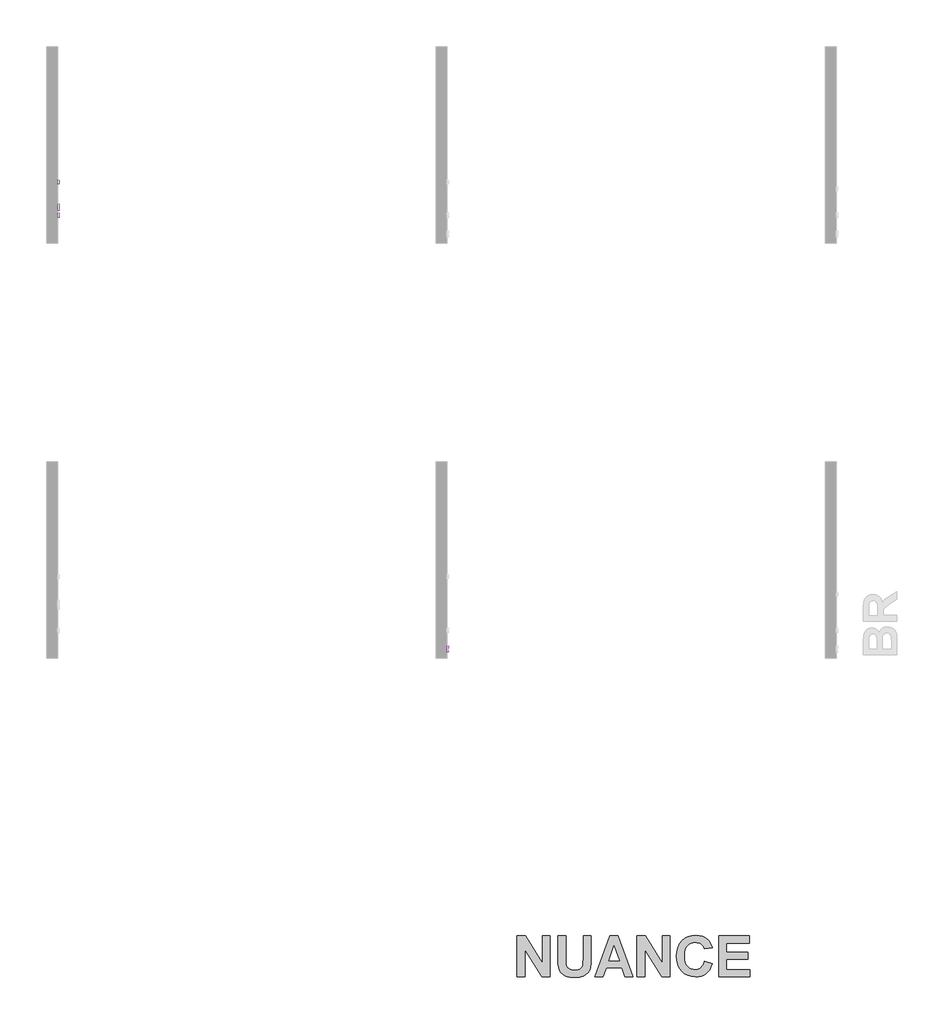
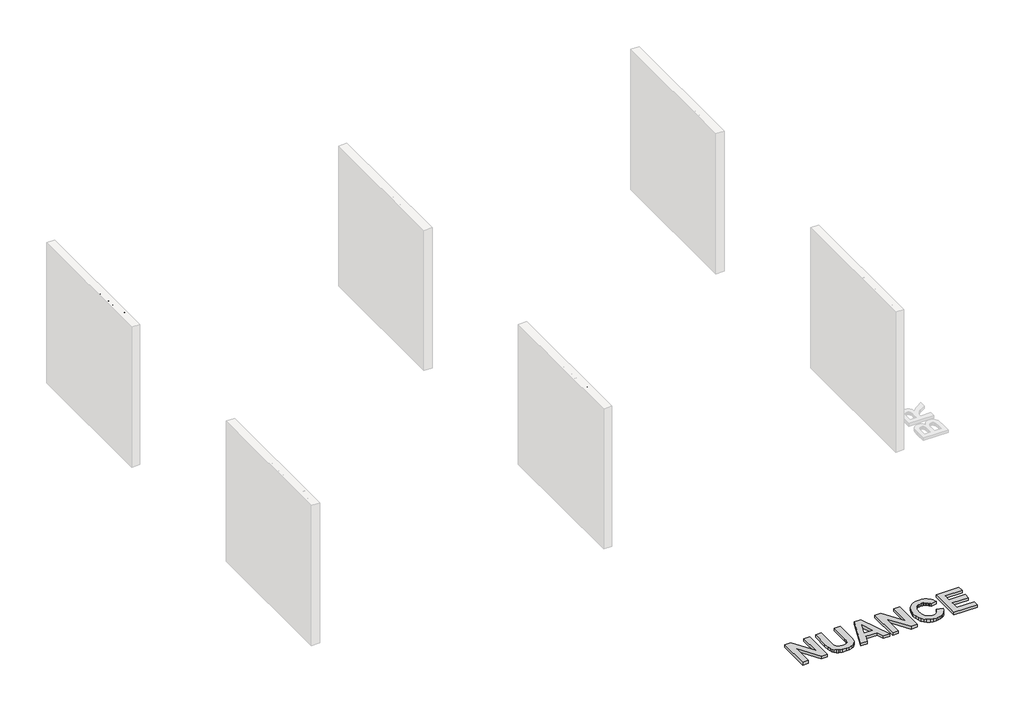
# One storey, part 2 of 21: 5 proxies.
"""IFC4 building model written with IfcOpenShell, lengths in millimetres."""

import ifcopenshell
import ifcopenshell.guid

model = None  # the IFC model being written
_history = None  # IfcOwnerHistory: only IFC2X3 demands one
_inside = {}  # id of a spatial element -> (the spatial element, [elements in it])
_under = {}  # id of a project, library or spatial element -> (it, [spatial elements below it])
_declared = {}  # id of a project -> (the project, [libraries it declares])
_typed = {}  # id of a type object -> (the type object, [elements of that type])
_made_of = {}  # id of a material, layer set ... -> (it, [elements and type objects made of it])


def new_model(schema):
    """Start an empty IFC model of exactly this schema.

    Asked for "IFC4X3", IfcOpenShell would pick the latest addendum, in which some entities
    have other attributes; the version numbers below select the first issue.
    IFC2X3 requires an IfcOwnerHistory on every rooted entity: one is made here for all.
    """
    global model, _history
    if schema == "IFC4X3":
        model = ifcopenshell.file(schema_version=(4, 3, 0, 0))
    else:
        model = ifcopenshell.file(schema=schema)
    _inside.clear()
    _under.clear()
    _declared.clear()
    _typed.clear()
    _made_of.clear()
    _history = None
    if model.schema == "IFC2X3":
        org = make("IfcOrganization", Name="unknown")
        user = make(
            "IfcPersonAndOrganization",
            ThePerson=make("IfcPerson", FamilyName="unknown"),
            TheOrganization=org,
        )
        app = make(
            "IfcApplication",
            ApplicationDeveloper=org,
            Version="unknown",
            ApplicationFullName="unknown",
            ApplicationIdentifier="unknown",
        )
        _history = make(
            "IfcOwnerHistory",
            OwningUser=user,
            OwningApplication=app,
            ChangeAction="ADDED",
            CreationDate=0,
        )
    return model


def make(cls, **values):
    """One entity of the class cls with the attributes given. An attribute that is None is left unset."""
    return model.create_entity(
        cls, **{name: value for name, value in values.items() if value is not None}
    )


def rooted(cls, **values):
    """An entity with a GlobalId (a new one), such as an element, a storey or a relation."""
    return make(cls, GlobalId=ifcopenshell.guid.new(), OwnerHistory=_history, **values)


def si_unit(unit_type, name, prefix=None):
    """IfcSIUnit, for example si_unit("LENGTHUNIT", "METRE", prefix="MILLI")."""
    return make("IfcSIUnit", UnitType=unit_type, Prefix=prefix, Name=name)


def assignment(units):
    """IfcUnitAssignment: the units of a project."""
    return None if units is None else make("IfcUnitAssignment", Units=units)


def point(xyz):
    """IfcCartesianPoint."""
    return None if xyz is None else make("IfcCartesianPoint", Coordinates=xyz)


def direction(xyz):
    """IfcDirection."""
    return None if xyz is None else make("IfcDirection", DirectionRatios=xyz)


def frame(location, z_axis=None, x_axis=None):
    """IfcAxis2Placement3D, a coordinate frame: its origin and axes. An axis left out is left unset."""
    return make(
        "IfcAxis2Placement3D",
        Location=point(location),
        Axis=direction(z_axis),
        RefDirection=direction(x_axis),
    )


def origin():
    """The frame at (0, 0, 0) with its axes left unset."""
    return frame((0.0, 0.0, 0.0))


def origin_with_axes():
    """The frame at (0, 0, 0) with the z axis (0, 0, 1) and the x axis (1, 0, 0) written out."""
    return frame((0.0, 0.0, 0.0), z_axis=(0.0, 0.0, 1.0), x_axis=(1.0, 0.0, 0.0))


def place(relative_to, where):
    """IfcLocalPlacement: puts the frame where relative to a parent placement (None: the world)."""
    return make(
        "IfcLocalPlacement", PlacementRelTo=relative_to, RelativePlacement=where
    )


def context(
    kind, dimensions, precision=None, world=None, true_north=None, identifier=None
):
    """IfcGeometricRepresentationContext, for example the 3D "Model" context."""
    return make(
        "IfcGeometricRepresentationContext",
        ContextIdentifier=identifier,
        ContextType=kind,
        CoordinateSpaceDimension=dimensions,
        Precision=precision,
        WorldCoordinateSystem=world,
        TrueNorth=true_north,
    )


def project(units=None, contexts=None):
    """IfcProject with its units and contexts."""
    return rooted(
        "IfcProject",
        Name="project",
        RepresentationContexts=contexts,
        UnitsInContext=assignment(units),
    )


def spatial(cls, under=None, at=None, **own):
    """A site, building, storey or space (cls), placed at a placement, below another one or the project."""
    s = rooted(cls, ObjectPlacement=at, **own)
    if under is not None:
        _under.setdefault(under.id(), (under, []))[1].append(s)
    return s


def polyline(points):
    """IfcPolyline through the points."""
    return make("IfcPolyline", Points=[point(p) for p in points])


def outline(outer, holes=None, kind="AREA"):
    """IfcArbitraryClosedProfileDef: a profile drawn as a closed curve; with holes, ...WithVoids."""
    if holes is None:
        return make("IfcArbitraryClosedProfileDef", ProfileType=kind, OuterCurve=outer)
    return make(
        "IfcArbitraryProfileDefWithVoids",
        ProfileType=kind,
        OuterCurve=outer,
        InnerCurves=holes,
    )


def extrude(swept, where, along, depth):
    """IfcExtrudedAreaSolid: the profile swept, set in the frame where, extruded along a direction by depth."""
    return make(
        "IfcExtrudedAreaSolid",
        SweptArea=swept,
        Position=where,
        ExtrudedDirection=direction(along),
        Depth=depth,
    )


def shape(context_of_items, identifier, shape_type, items):
    """IfcShapeRepresentation: the items that make up one representation, for example the "Body"."""
    return make(
        "IfcShapeRepresentation",
        ContextOfItems=context_of_items,
        RepresentationIdentifier=identifier,
        RepresentationType=shape_type,
        Items=items,
    )


def made_of(thing, what):
    """Note that an element or type object is made of a material, layer set ...; save() writes the relation."""
    if what is not None:
        _made_of.setdefault(what.id(), (what, []))[1].append(thing)
    return thing


def element(
    cls,
    number,
    at=None,
    inside=None,
    cuts=None,
    type_object=None,
    material=None,
    context=None,
    identifier="Body",
    shape_type=None,
    held_by="IfcProductDefinitionShape",
    body=None,
    shapes=None,
    **own,
):
    """One element of the class cls, such as IfcWall. Its Tag is "e" and its number.

    at: its placement. inside: the storey or other place that contains it. cuts: it is an
    opening in that element (IfcRelVoidsElement). A single representation is given by context,
    identifier, shape_type and body (its items); several are given by shapes. held_by: the class
    of the entity that holds the representations. save() writes the other relations.
    """
    e = rooted(cls, Tag="e%d" % number, ObjectPlacement=at, **own)
    if body is not None:
        shapes = [shape(context, identifier, shape_type, body)]
    if shapes is not None:
        e.Representation = make(held_by, Representations=shapes)
    if inside is not None:
        _inside.setdefault(inside.id(), (inside, []))[1].append(e)
    if cuts is not None:
        rooted(
            "IfcRelVoidsElement", RelatingBuildingElement=cuts, RelatedOpeningElement=e
        )
    if type_object is not None:
        _typed.setdefault(type_object.id(), (type_object, []))[1].append(e)
    return made_of(e, material)


def aggregate(whole, parts):
    """IfcRelAggregates: a whole, such as a stair, and the parts it consists of."""
    return rooted("IfcRelAggregates", RelatingObject=whole, RelatedObjects=parts)


def save(model, path):
    """Write the relations noted so far, then the file.

    IfcRelAggregates (storeys below a building ...), IfcRelContainedInSpatialStructure (elements
    in a storey), IfcRelDefinesByType, IfcRelAssociatesMaterial and IfcRelDeclares: one each for
    every whole, place, type object, material and project.
    """
    for whole, parts in _under.values():
        aggregate(whole, parts)
    for where, things in _inside.values():
        rooted(
            "IfcRelContainedInSpatialStructure",
            RelatedElements=things,
            RelatingStructure=where,
        )
    for kind, things in _typed.values():
        rooted("IfcRelDefinesByType", RelatedObjects=things, RelatingType=kind)
    for what, things in _made_of.values():
        rooted("IfcRelAssociatesMaterial", RelatedObjects=things, RelatingMaterial=what)
    for by, libraries in _declared.values():
        rooted("IfcRelDeclares", RelatingContext=by, RelatedDefinitions=libraries)
    model.write(path)


model = new_model("IFC4")

# Units and contexts
model_context = context("Model", 3, world=origin())
ifc_project = project(units=[si_unit("LENGTHUNIT", "METRE", prefix="MILLI")], contexts=[model_context])

# Site, building, storey
site = spatial("IfcSite", under=ifc_project)
building = spatial("IfcBuilding", under=site)
storey = spatial("IfcBuildingStorey", under=building, Name="PORTOBELLO - SHOWROOM", Elevation=0.0)

# Proxies
placement = place(None, origin())
element("IfcBuildingElementProxy", 1, Name="10mm Arial", ObjectType="10mm Arial", at=placement, inside=storey, context=model_context, shape_type="SweptSolid", body=[
    extrude(outline(polyline([(-1946.6519205, 2518.4745677), (-1906.552783, 2618.9308778), (-1895.8596797, 2618.9308778), (-1855.7850677, 2518.4745677), (-1869.0533449, 2518.4745677), (-1880.5312632, 2549.8671646), (-1921.9302504, 2549.8671646), (-1933.4081686, 2518.4745677), (-1946.6519205, 2518.4745677)]), holes=[polyline([(-1917.3194627, 2562.4242034), (-1885.1175254, 2562.4242034), (-1894.191948, 2587.121348), (-1901.2307568, 2606.373839), (-1907.4847507, 2589.279589), (-1917.3194627, 2562.4242034)])]), frame((15184.9919226, 0.0, 0.0), z_axis=(1.0, 0.0, 0.0), x_axis=(0.0, 1.0, 0.0)), (0.0, 0.0, 1.0), 20.0),
    extrude(outline(polyline([(-1843.9392674, 2518.4745677), (-1843.9392674, 2592.2471704), (-1832.9518585, 2592.2471704), (-1832.9518585, 2581.3333379), (-1825.1527602, 2591.3887791), (-1817.304611, 2593.8168003), (-1804.6985213, 2589.9417766), (-1808.892376, 2578.6845875), (-1817.7215439, 2581.2597615), (-1824.8216664, 2578.7826894), (-1829.3466149, 2571.9155588), (-1831.3822286, 2557.24933), (-1831.3822286, 2518.4745677), (-1843.9392674, 2518.4745677)])), frame((15184.9919226, 0.0, 0.0), z_axis=(1.0, 0.0, 0.0), x_axis=(0.0, 1.0, 0.0)), (0.0, 0.0, 1.0), 20.0),
    extrude(outline(polyline([(15204.9919226, -1784.2933333), (15204.9919226, -1796.850372), (15184.9919226, -1796.850372), (15184.9919226, -1784.2933333), (15204.9919226, -1784.2933333)])), frame((0.0, 0.0, 2518.4745677), z_axis=(0.0, 0.0, 1.0), x_axis=(1.0, 0.0, 0.0)), (0.0, 0.0, 1.0), 100.4563101),
    extrude(outline(polyline([(-1713.807143, 2540.4493855), (-1701.4953589, 2538.8797557), (-1705.9314026, 2529.602998), (-1713.0100653, 2522.6684224), (-1722.5719315, 2518.345809), (-1734.4575856, 2516.9049378), (-1749.1912596, 2519.391207), (-1760.5281564, 2526.8500144), (-1767.7570376, 2538.7969822), (-1770.1666646, 2554.7477324), (-1767.7325121, 2571.2349771), (-1760.4300545, 2583.5651553), (-1749.2464419, 2591.253889), (-1735.1688242, 2593.8168003), (-1721.5295992, 2591.2600204), (-1710.6310951, 2583.5896808), (-1703.4849873, 2571.2840281), (-1701.1029514, 2554.8213088), (-1701.1765278, 2551.4367944), (-1757.6096259, 2551.4367944), (-1755.4360564, 2542.0374095), (-1750.386876, 2535.1273593), (-1743.0997468, 2530.8783223), (-1734.212331, 2529.4619766), (-1721.9005469, 2532.0862015), (-1713.807143, 2540.4493855)]), holes=[polyline([(-1757.6096259, 2563.9938332), (-1713.6599902, 2563.9938332), (-1718.6877108, 2575.3736496), (-1726.0085625, 2579.7882335), (-1735.2178751, 2581.2597615), (-1750.6811816, 2576.5631347), (-1755.546421, 2571.0724959), (-1757.6096259, 2563.9938332)])]), frame((15184.9919226, 0.0, 0.0), z_axis=(1.0, 0.0, 0.0), x_axis=(0.0, 1.0, 0.0)), (0.0, 0.0, 1.0), 20.0),
    extrude(outline(polyline([(-1693.2548022, 2540.4493855), (-1680.6977634, 2542.0190154), (-1674.8852279, 2532.6993381), (-1661.5678997, 2529.4619766), (-1648.7656062, 2532.429558), (-1644.596277, 2539.3947905), (-1648.7901317, 2545.0356477), (-1661.7150525, 2548.6163658), (-1680.624187, 2554.7599951), (-1688.8770064, 2561.933694), (-1691.6851723, 2572.0627116), (-1689.4288294, 2581.419177), (-1683.2729374, 2588.5683505), (-1675.2898981, 2592.2839586), (-1664.4864302, 2593.8168003), (-1649.2070646, 2591.3519909), (-1639.49498, 2584.6810641), (-1635.1784979, 2573.4116123), (-1647.7355366, 2571.8419824), (-1652.4566889, 2578.7704267), (-1663.5054115, 2581.2597615), (-1675.52289, 2578.8807913), (-1679.1281336, 2573.3380359), (-1677.6320801, 2569.6837414), (-1672.9477161, 2566.9123637), (-1662.1319854, 2564.2390879), (-1643.7010974, 2558.3284505), (-1635.1417097, 2551.6329982), (-1632.0392382, 2540.7191656), (-1635.6812699, 2528.7016871), (-1646.1904323, 2519.9828838), (-1661.7395779, 2516.9049378), (-1674.4008499, 2518.3887285), (-1683.6408194, 2522.8401007), (-1689.8089742, 2530.2100033), (-1693.2548022, 2540.4493855)])), frame((15184.9919226, 0.0, 0.0), z_axis=(1.0, 0.0, 0.0), x_axis=(0.0, 1.0, 0.0)), (0.0, 0.0, 1.0), 20.0),
    extrude(outline(polyline([(-1581.8110831, 2567.3783476), (-1578.463357, 2589.5922887), (-1568.4201785, 2606.3983645), (-1553.0856307, 2616.9749719), (-1533.8637964, 2620.5005077), (-1520.6874896, 2618.8450387), (-1508.8723462, 2613.8786317), (-1499.0621597, 2605.9507747), (-1491.9007235, 2595.4109556), (-1487.5229277, 2582.7680777), (-1486.0636625, 2568.5310445), (-1487.5995698, 2554.1039389), (-1492.2072918, 2541.2832514), (-1499.6323768, 2530.7250381), (-1509.6203729, 2523.0853553), (-1521.3343488, 2518.4500422), (-1533.9373728, 2516.9049378), (-1547.3160147, 2518.6125234), (-1559.1986031, 2523.7352802), (-1568.9842642, 2531.81029), (-1576.072124, 2542.3746346), (-1581.8110831, 2567.3783476)]), holes=[polyline([(-1569.2540443, 2567.2557202), (-1566.7432497, 2551.5410277), (-1559.2108659, 2539.5664687), (-1547.8892975, 2531.9880996), (-1534.0109492, 2529.4619766), (-1519.9302658, 2532.0126251), (-1508.5903033, 2539.6645706), (-1501.1131018, 2552.0070115), (-1498.6207013, 2568.6291463), (-1502.8881324, 2589.3531654), (-1515.3593321, 2603.0751638), (-1533.79022, 2607.9434689), (-1547.2976206, 2605.5982212), (-1558.7816702, 2598.562478), (-1566.6359508, 2586.0452931), (-1569.2540443, 2567.2557202)])]), frame((15184.9919226, 0.0, 0.0), z_axis=(1.0, 0.0, 0.0), x_axis=(0.0, 1.0, 0.0)), (0.0, 0.0, 1.0), 20.0),
    extrude(outline(polyline([(15204.9919226, -1457.8103253), (15204.9919226, -1470.367364), (15184.9919226, -1470.367364), (15184.9919226, -1457.8103253), (15204.9919226, -1457.8103253)])), frame((0.0, 0.0, 2518.4745677), z_axis=(0.0, 0.0, 1.0), x_axis=(1.0, 0.0, 0.0)), (0.0, 0.0, 1.0), 100.4563101),
    extrude(outline(polyline([(15204.9919226, -1426.4177284), (15204.9919226, -1438.9747671), (15184.9919226, -1438.9747671), (15184.9919226, -1426.4177284), (15204.9919226, -1426.4177284)])), frame((0.0, 0.0, 2606.373839), z_axis=(0.0, 0.0, 1.0), x_axis=(1.0, 0.0, 0.0)), (0.0, 0.0, 1.0), 12.5570388),
    extrude(outline(polyline([(15204.9919226, -1426.4177284), (15204.9919226, -1438.9747671), (15184.9919226, -1438.9747671), (15184.9919226, -1426.4177284), (15204.9919226, -1426.4177284)])), frame((0.0, 0.0, 2518.4745677), z_axis=(0.0, 0.0, 1.0), x_axis=(1.0, 0.0, 0.0)), (0.0, 0.0, 1.0), 73.7726028),
    extrude(outline(polyline([(-1389.4333251, 2518.4745677), (-1415.4303194, 2592.2471704), (-1402.1620421, 2592.2471704), (-1386.4166927, 2548.0522801), (-1381.6832777, 2533.1898475), (-1377.0479646, 2547.2184142), (-1361.2290388, 2592.2471704), (-1347.936236, 2592.2471704), (-1373.5653484, 2518.4745677), (-1389.4333251, 2518.4745677)])), frame((15184.9919226, 0.0, 0.0), z_axis=(1.0, 0.0, 0.0), x_axis=(0.0, 1.0, 0.0)), (0.0, 0.0, 1.0), 20.0),
    extrude(outline(polyline([(-1285.298195, 2540.4493855), (-1272.9864109, 2538.8797557), (-1277.4224546, 2529.602998), (-1284.5011173, 2522.6684224), (-1294.0629835, 2518.345809), (-1305.9486377, 2516.9049378), (-1320.6823116, 2519.391207), (-1332.0192084, 2526.8500144), (-1339.2480896, 2538.7969822), (-1341.6577167, 2554.7477324), (-1339.2235641, 2571.2349771), (-1331.9211065, 2583.5651553), (-1320.7374939, 2591.253889), (-1306.6598762, 2593.8168003), (-1293.0206512, 2591.2600204), (-1282.1221471, 2583.5896808), (-1274.9760394, 2571.2840281), (-1272.5940034, 2554.8213088), (-1272.6675798, 2551.4367944), (-1329.1006779, 2551.4367944), (-1326.9271084, 2542.0374095), (-1321.8779281, 2535.1273593), (-1314.5907989, 2530.8783223), (-1305.703383, 2529.4619766), (-1293.3915989, 2532.0862015), (-1285.298195, 2540.4493855)]), holes=[polyline([(-1329.1006779, 2563.9938332), (-1285.1510422, 2563.9938332), (-1290.1787628, 2575.3736496), (-1297.4996145, 2579.7882335), (-1306.7089271, 2581.2597615), (-1322.1722337, 2576.5631347), (-1327.037473, 2571.0724959), (-1329.1006779, 2563.9938332)])]), frame((15184.9919226, 0.0, 0.0), z_axis=(1.0, 0.0, 0.0), x_axis=(0.0, 1.0, 0.0)), (0.0, 0.0, 1.0), 20.0),
])
element("IfcBuildingElementProxy", 2, Name="10mm Arial", ObjectType="10mm Arial", at=placement, inside=storey, context=model_context, shape_type="SweptSolid", body=[
    extrude(outline(polyline([(-1892.5977926, 2383.4745677), (-1905.1548314, 2383.4745677), (-1905.1548314, 2461.7598562), (-1917.0496826, 2453.2863076), (-1930.2689089, 2446.9464746), (-1930.2689089, 2458.8168003), (-1911.8625465, 2470.5644987), (-1900.6911965, 2483.9308778), (-1892.5977926, 2483.9308778), (-1892.5977926, 2383.4745677)])), frame((15184.9919226, 0.0, 0.0), z_axis=(1.0, 0.0, 0.0), x_axis=(0.0, 1.0, 0.0)), (0.0, 0.0, 1.0), 20.0),
    extrude(outline(polyline([(-1862.7748256, 2410.158275), (-1850.2177868, 2411.7279049), (-1843.8902165, 2398.7907214), (-1830.769092, 2394.4619766), (-1821.7682458, 2395.9672271), (-1815.0237426, 2400.4829786), (-1810.8114937, 2407.4880649), (-1809.4074108, 2416.4613199), (-1814.6681233, 2431.3728034), (-1821.2746708, 2435.4746877), (-1830.5728883, 2436.8419824), (-1841.5970854, 2434.6592159), (-1848.6481569, 2428.9938332), (-1861.2051957, 2430.563463), (-1850.2177868, 2482.361248), (-1801.5592616, 2482.361248), (-1801.5592616, 2469.8042092), (-1840.0642437, 2469.8042092), (-1845.4598463, 2442.1394832), (-1836.489657, 2447.5841367), (-1827.090272, 2449.3990212), (-1815.3548364, 2447.1488097), (-1805.6059635, 2440.3981751), (-1799.0392699, 2430.1097419), (-1796.850372, 2417.2461348), (-1798.8185407, 2404.6890961), (-1804.7230467, 2393.9469418), (-1816.0292867, 2384.9154388), (-1830.8181429, 2381.9049378), (-1843.1513868, 2383.839384), (-1852.9769018, 2389.6427224), (-1859.712208, 2398.6405029), (-1862.7748256, 2410.158275)])), frame((15184.9919226, 0.0, 0.0), z_axis=(1.0, 0.0, 0.0), x_axis=(0.0, 1.0, 0.0)), (0.0, 0.0, 1.0), 20.0),
    extrude(outline(polyline([(-1779.5844437, 2383.4745677), (-1779.5844437, 2396.0316064), (-1767.027405, 2396.0316064), (-1767.027405, 2383.4745677), (-1769.2837479, 2370.635486), (-1776.445184, 2363.0693797), (-1779.5844437, 2367.7782692), (-1774.973656, 2373.1983973), (-1773.3304498, 2383.4745677), (-1779.5844437, 2383.4745677)])), frame((15184.9919226, 0.0, 0.0), z_axis=(1.0, 0.0, 0.0), x_axis=(0.0, 1.0, 0.0)), (0.0, 0.0, 1.0), 20.0),
    extrude(outline(polyline([(-1746.622217, 2410.158275), (-1734.0651782, 2411.7279049), (-1727.7376079, 2398.7907214), (-1714.6164834, 2394.4619766), (-1705.6156372, 2395.9672271), (-1698.871134, 2400.4829786), (-1694.6588851, 2407.4880649), (-1693.2548022, 2416.4613199), (-1698.5155147, 2431.3728034), (-1705.1220622, 2435.4746877), (-1714.4202796, 2436.8419824), (-1725.4444768, 2434.6592159), (-1732.4955483, 2428.9938332), (-1745.0525871, 2430.563463), (-1734.0651782, 2482.361248), (-1685.406653, 2482.361248), (-1685.406653, 2469.8042092), (-1723.9116351, 2469.8042092), (-1729.3072377, 2442.1394832), (-1720.3370484, 2447.5841367), (-1710.9376634, 2449.3990212), (-1699.2022278, 2447.1488097), (-1689.4533549, 2440.3981751), (-1682.8866613, 2430.1097419), (-1680.6977634, 2417.2461348), (-1682.6659321, 2404.6890961), (-1688.5704381, 2393.9469418), (-1699.8766781, 2384.9154388), (-1714.6655343, 2381.9049378), (-1726.9987782, 2383.839384), (-1736.8242931, 2389.6427224), (-1743.5595993, 2398.6405029), (-1746.622217, 2410.158275)])), frame((15184.9919226, 0.0, 0.0), z_axis=(1.0, 0.0, 0.0), x_axis=(0.0, 1.0, 0.0)), (0.0, 0.0, 1.0), 20.0),
    extrude(outline(polyline([(-1674.419244, 2383.4745677), (-1647.5883839, 2420.5815982), (-1672.8496142, 2457.2471704), (-1657.7909779, 2457.2471704), (-1645.6018211, 2439.5643092), (-1639.8873874, 2431.2501761), (-1634.9332432, 2438.0682557), (-1621.0518293, 2457.2471704), (-1605.944142, 2457.2471704), (-1632.4806966, 2420.5570728), (-1606.9251607, 2383.4745677), (-1622.0083225, 2383.4745677), (-1637.4103153, 2405.792742), (-1640.2062185, 2409.8884949), (-1659.3115568, 2383.4745677), (-1674.419244, 2383.4745677)])), frame((15184.9919226, 0.0, 0.0), z_axis=(1.0, 0.0, 0.0), x_axis=(0.0, 1.0, 0.0)), (0.0, 0.0, 1.0), 20.0),
    extrude(outline(polyline([(-1551.988116, 2383.4745677), (-1564.5451548, 2383.4745677), (-1564.5451548, 2461.7598562), (-1576.440006, 2453.2863076), (-1589.6592323, 2446.9464746), (-1589.6592323, 2458.8168003), (-1571.2528699, 2470.5644987), (-1560.0815199, 2483.9308778), (-1551.988116, 2483.9308778), (-1551.988116, 2383.4745677)])), frame((15184.9919226, 0.0, 0.0), z_axis=(1.0, 0.0, 0.0), x_axis=(0.0, 1.0, 0.0)), (0.0, 0.0, 1.0), 20.0),
    extrude(outline(polyline([(-1522.165149, 2410.158275), (-1509.6081102, 2411.7279049), (-1503.2805399, 2398.7907214), (-1490.1594154, 2394.4619766), (-1481.1585692, 2395.9672271), (-1474.414066, 2400.4829786), (-1470.2018171, 2407.4880649), (-1468.7977342, 2416.4613199), (-1474.0584467, 2431.3728034), (-1480.6649942, 2435.4746877), (-1489.9632117, 2436.8419824), (-1500.9874088, 2434.6592159), (-1508.0384803, 2428.9938332), (-1520.5955191, 2430.563463), (-1509.6081102, 2482.361248), (-1460.949585, 2482.361248), (-1460.949585, 2469.8042092), (-1499.4545671, 2469.8042092), (-1504.8501697, 2442.1394832), (-1495.8799804, 2447.5841367), (-1486.4805954, 2449.3990212), (-1474.7451598, 2447.1488097), (-1464.9962869, 2440.3981751), (-1458.4295933, 2430.1097419), (-1456.2406954, 2417.2461348), (-1458.2088641, 2404.6890961), (-1464.1133701, 2393.9469418), (-1475.4196101, 2384.9154388), (-1490.2084663, 2381.9049378), (-1502.5417102, 2383.839384), (-1512.3672252, 2389.6427224), (-1519.1025314, 2398.6405029), (-1522.165149, 2410.158275)])), frame((15184.9919226, 0.0, 0.0), z_axis=(1.0, 0.0, 0.0), x_axis=(0.0, 1.0, 0.0)), (0.0, 0.0, 1.0), 20.0),
    extrude(outline(polyline([(-1438.9747671, 2383.4745677), (-1438.9747671, 2396.0316064), (-1426.4177284, 2396.0316064), (-1426.4177284, 2383.4745677), (-1428.6740713, 2370.635486), (-1435.8355074, 2363.0693797), (-1438.9747671, 2367.7782692), (-1434.3639794, 2373.1983973), (-1432.7207732, 2383.4745677), (-1438.9747671, 2383.4745677)])), frame((15184.9919226, 0.0, 0.0), z_axis=(1.0, 0.0, 0.0), x_axis=(0.0, 1.0, 0.0)), (0.0, 0.0, 1.0), 20.0),
    extrude(outline(polyline([(-1406.0125404, 2410.158275), (-1393.4555016, 2411.7279049), (-1387.1279313, 2398.7907214), (-1374.0068068, 2394.4619766), (-1365.0059606, 2395.9672271), (-1358.2614574, 2400.4829786), (-1354.0492085, 2407.4880649), (-1352.6451256, 2416.4613199), (-1357.9058381, 2431.3728034), (-1364.5123856, 2435.4746877), (-1373.810603, 2436.8419824), (-1384.8348002, 2434.6592159), (-1391.8858717, 2428.9938332), (-1404.4429105, 2430.563463), (-1393.4555016, 2482.361248), (-1344.7969764, 2482.361248), (-1344.7969764, 2469.8042092), (-1383.3019585, 2469.8042092), (-1388.6975611, 2442.1394832), (-1379.7273718, 2447.5841367), (-1370.3279868, 2449.3990212), (-1358.5925512, 2447.1488097), (-1348.8436783, 2440.3981751), (-1342.2769847, 2430.1097419), (-1340.0880868, 2417.2461348), (-1342.0562555, 2404.6890961), (-1347.9607615, 2393.9469418), (-1359.2670015, 2384.9154388), (-1374.0558577, 2381.9049378), (-1386.3891016, 2383.839384), (-1396.2146165, 2389.6427224), (-1402.9499227, 2398.6405029), (-1406.0125404, 2410.158275)])), frame((15184.9919226, 0.0, 0.0), z_axis=(1.0, 0.0, 0.0), x_axis=(0.0, 1.0, 0.0)), (0.0, 0.0, 1.0), 20.0),
])
element("IfcBuildingElementProxy", 3, Name="10mm Arial", ObjectType="10mm Arial", at=placement, inside=storey, context=model_context, shape_type="SweptSolid", body=[
    extrude(outline(polyline([(-7646.6519205, 2518.4745677), (-7606.552783, 2618.9308778), (-7595.8596797, 2618.9308778), (-7555.7850677, 2518.4745677), (-7569.0533449, 2518.4745677), (-7580.5312632, 2549.8671646), (-7621.9302504, 2549.8671646), (-7633.4081686, 2518.4745677), (-7646.6519205, 2518.4745677)]), holes=[polyline([(-7617.3194627, 2562.4242034), (-7585.1175254, 2562.4242034), (-7594.191948, 2587.121348), (-7601.2307568, 2606.373839), (-7607.4847507, 2589.279589), (-7617.3194627, 2562.4242034)])]), frame((20534.9936671, 0.0, 0.0), z_axis=(1.0, 0.0, 0.0), x_axis=(0.0, 1.0, 0.0)), (0.0, 0.0, 1.0), 20.0),
    extrude(outline(polyline([(-7543.9392674, 2518.4745677), (-7543.9392674, 2592.2471704), (-7532.9518585, 2592.2471704), (-7532.9518585, 2581.3333379), (-7525.1527602, 2591.3887791), (-7517.304611, 2593.8168003), (-7504.6985213, 2589.9417766), (-7508.892376, 2578.6845875), (-7517.7215439, 2581.2597615), (-7524.8216664, 2578.7826894), (-7529.3466149, 2571.9155588), (-7531.3822286, 2557.24933), (-7531.3822286, 2518.4745677), (-7543.9392674, 2518.4745677)])), frame((20534.9936671, 0.0, 0.0), z_axis=(1.0, 0.0, 0.0), x_axis=(0.0, 1.0, 0.0)), (0.0, 0.0, 1.0), 20.0),
    extrude(outline(polyline([(20554.9936671, -7484.2933333), (20554.9936671, -7496.850372), (20534.9936671, -7496.850372), (20534.9936671, -7484.2933333), (20554.9936671, -7484.2933333)])), frame((0.0, 0.0, 2518.4745677), z_axis=(0.0, 0.0, 1.0), x_axis=(1.0, 0.0, 0.0)), (0.0, 0.0, 1.0), 100.4563101),
    extrude(outline(polyline([(-7413.807143, 2540.4493855), (-7401.4953589, 2538.8797557), (-7405.9314026, 2529.602998), (-7413.0100653, 2522.6684224), (-7422.5719315, 2518.345809), (-7434.4575856, 2516.9049378), (-7449.1912596, 2519.391207), (-7460.5281564, 2526.8500144), (-7467.7570376, 2538.7969822), (-7470.1666646, 2554.7477324), (-7467.7325121, 2571.2349771), (-7460.4300545, 2583.5651553), (-7449.2464419, 2591.253889), (-7435.1688242, 2593.8168003), (-7421.5295992, 2591.2600204), (-7410.6310951, 2583.5896808), (-7403.4849873, 2571.2840281), (-7401.1029514, 2554.8213088), (-7401.1765278, 2551.4367944), (-7457.6096259, 2551.4367944), (-7455.4360564, 2542.0374095), (-7450.386876, 2535.1273593), (-7443.0997468, 2530.8783223), (-7434.212331, 2529.4619766), (-7421.9005469, 2532.0862015), (-7413.807143, 2540.4493855)]), holes=[polyline([(-7457.6096259, 2563.9938332), (-7413.6599902, 2563.9938332), (-7418.6877108, 2575.3736496), (-7426.0085625, 2579.7882335), (-7435.2178751, 2581.2597615), (-7450.6811816, 2576.5631347), (-7455.546421, 2571.0724959), (-7457.6096259, 2563.9938332)])]), frame((20534.9936671, 0.0, 0.0), z_axis=(1.0, 0.0, 0.0), x_axis=(0.0, 1.0, 0.0)), (0.0, 0.0, 1.0), 20.0),
    extrude(outline(polyline([(-7393.2548022, 2540.4493855), (-7380.6977634, 2542.0190154), (-7374.8852279, 2532.6993381), (-7361.5678997, 2529.4619766), (-7348.7656062, 2532.429558), (-7344.596277, 2539.3947905), (-7348.7901317, 2545.0356477), (-7361.7150525, 2548.6163658), (-7380.624187, 2554.7599951), (-7388.8770064, 2561.933694), (-7391.6851723, 2572.0627116), (-7389.4288294, 2581.419177), (-7383.2729374, 2588.5683505), (-7375.2898981, 2592.2839586), (-7364.4864302, 2593.8168003), (-7349.2070646, 2591.3519909), (-7339.49498, 2584.6810641), (-7335.1784979, 2573.4116123), (-7347.7355366, 2571.8419824), (-7352.4566889, 2578.7704267), (-7363.5054115, 2581.2597615), (-7375.52289, 2578.8807913), (-7379.1281336, 2573.3380359), (-7377.6320801, 2569.6837414), (-7372.9477161, 2566.9123637), (-7362.1319854, 2564.2390879), (-7343.7010974, 2558.3284505), (-7335.1417097, 2551.6329982), (-7332.0392382, 2540.7191656), (-7335.6812699, 2528.7016871), (-7346.1904323, 2519.9828838), (-7361.7395779, 2516.9049378), (-7374.4008499, 2518.3887285), (-7383.6408194, 2522.8401007), (-7389.8089742, 2530.2100033), (-7393.2548022, 2540.4493855)])), frame((20534.9936671, 0.0, 0.0), z_axis=(1.0, 0.0, 0.0), x_axis=(0.0, 1.0, 0.0)), (0.0, 0.0, 1.0), 20.0),
    extrude(outline(polyline([(-7277.1021936, 2518.4745677), (-7277.1021936, 2618.9308778), (-7264.5451548, 2618.9308778), (-7264.5451548, 2531.0316064), (-7214.3169997, 2531.0316064), (-7214.3169997, 2518.4745677), (-7277.1021936, 2518.4745677)])), frame((20534.9936671, 0.0, 0.0), z_axis=(1.0, 0.0, 0.0), x_axis=(0.0, 1.0, 0.0)), (0.0, 0.0, 1.0), 20.0),
    extrude(outline(polyline([(-7154.6710656, 2527.8923467), (-7166.8479596, 2519.3820099), (-7180.3001779, 2516.9049378), (-7190.7940118, 2518.3948599), (-7198.5348621, 2522.8646261), (-7203.308131, 2529.6520489), (-7204.8992207, 2538.0949407), (-7202.495725, 2548.0277546), (-7196.1804174, 2555.2382417), (-7187.3880377, 2559.3585201), (-7176.5232561, 2561.246981), (-7154.744642, 2565.563463), (-7154.6710656, 2568.3593662), (-7158.1291563, 2577.6299925), (-7172.0105703, 2581.2597615), (-7184.7147619, 2578.8440031), (-7190.772552, 2570.2723526), (-7203.3295908, 2571.8419824), (-7197.8972, 2584.1047156), (-7186.958842, 2591.2906772), (-7170.3918895, 2593.8168003), (-7155.1738376, 2591.5849828), (-7146.5776617, 2585.9809138), (-7142.7271635, 2577.4583142), (-7142.1140268, 2566.4709053), (-7142.1140268, 2550.8481832), (-7141.4763647, 2529.0327809), (-7138.9747671, 2518.4745677), (-7151.5318059, 2518.4745677), (-7154.6710656, 2527.8923467)]), holes=[polyline([(-7154.6710656, 2553.0064243), (-7174.9291008, 2549.1559261), (-7185.7325687, 2547.1203124), (-7190.6253992, 2543.8093744), (-7192.3421819, 2538.9778575), (-7188.6020483, 2532.1843033), (-7177.6269021, 2529.4619766), (-7164.9227105, 2532.4663462), (-7156.7312048, 2539.738147), (-7154.744642, 2549.4502317), (-7154.6710656, 2553.0064243)])]), frame((20534.9936671, 0.0, 0.0), z_axis=(1.0, 0.0, 0.0), x_axis=(0.0, 1.0, 0.0)), (0.0, 0.0, 1.0), 20.0),
    extrude(outline(polyline([(-7106.6992534, 2518.4745677), (-7132.6962477, 2592.2471704), (-7119.4279704, 2592.2471704), (-7103.682621, 2548.0522801), (-7098.949206, 2533.1898475), (-7094.3138929, 2547.2184142), (-7078.4949671, 2592.2471704), (-7065.2021644, 2592.2471704), (-7090.8312767, 2518.4745677), (-7106.6992534, 2518.4745677)])), frame((20534.9936671, 0.0, 0.0), z_axis=(1.0, 0.0, 0.0), x_axis=(0.0, 1.0, 0.0)), (0.0, 0.0, 1.0), 20.0),
    extrude(outline(polyline([(-7007.12586, 2527.8923467), (-7019.3027541, 2519.3820099), (-7032.7549724, 2516.9049378), (-7043.2488063, 2518.3948599), (-7050.9896566, 2522.8646261), (-7055.7629255, 2529.6520489), (-7057.3540151, 2538.0949407), (-7054.9505194, 2548.0277546), (-7048.6352118, 2555.2382417), (-7039.8428322, 2559.3585201), (-7028.9780506, 2561.246981), (-7007.1994364, 2565.563463), (-7007.12586, 2568.3593662), (-7010.5839508, 2577.6299925), (-7024.4653648, 2581.2597615), (-7037.1695563, 2578.8440031), (-7043.2273465, 2570.2723526), (-7055.7843853, 2571.8419824), (-7050.3519945, 2584.1047156), (-7039.4136365, 2591.2906772), (-7022.846684, 2593.8168003), (-7007.6286321, 2591.5849828), (-6999.0324562, 2585.9809138), (-6995.1819579, 2577.4583142), (-6994.5688213, 2566.4709053), (-6994.5688213, 2550.8481832), (-6993.9311592, 2529.0327809), (-6991.4295616, 2518.4745677), (-7003.9866004, 2518.4745677), (-7007.12586, 2527.8923467)]), holes=[polyline([(-7007.12586, 2553.0064243), (-7027.3838952, 2549.1559261), (-7038.1873632, 2547.1203124), (-7043.0801937, 2543.8093744), (-7044.7969764, 2538.9778575), (-7041.0568427, 2532.1843033), (-7030.0816965, 2529.4619766), (-7017.377505, 2532.4663462), (-7009.1859992, 2539.738147), (-7007.1994364, 2549.4502317), (-7007.12586, 2553.0064243)])]), frame((20534.9936671, 0.0, 0.0), z_axis=(1.0, 0.0, 0.0), x_axis=(0.0, 1.0, 0.0)), (0.0, 0.0, 1.0), 20.0),
    extrude(outline(polyline([(-6977.302893, 2518.4745677), (-6977.302893, 2592.2471704), (-6964.7458542, 2592.2471704), (-6964.7458542, 2581.9464746), (-6955.1441341, 2590.8492188), (-6942.0352724, 2593.8168003), (-6930.1772094, 2591.4255673), (-6922.0838055, 2585.1470479), (-6918.3191464, 2575.9132098), (-6917.6569588, 2563.773104), (-6917.6569588, 2518.4745677), (-6930.2139976, 2518.4745677), (-6930.2139976, 2562.0808468), (-6931.6610001, 2573.1908831), (-6936.7745598, 2579.0647323), (-6945.3952613, 2581.2597615), (-6959.0191578, 2576.3301428), (-6963.3141801, 2569.1871007), (-6964.7458542, 2557.6172119), (-6964.7458542, 2518.4745677), (-6977.302893, 2518.4745677)])), frame((20534.9936671, 0.0, 0.0), z_axis=(1.0, 0.0, 0.0), x_axis=(0.0, 1.0, 0.0)), (0.0, 0.0, 1.0), 20.0),
    extrude(outline(polyline([(-6854.871765, 2518.4745677), (-6854.871765, 2530.3203679), (-6863.1797667, 2520.2587953), (-6874.6638163, 2516.9049378), (-6890.212962, 2521.7609802), (-6901.2003709, 2535.3113003), (-6905.0999201, 2555.2872926), (-6901.5069392, 2575.2755477), (-6890.7402595, 2589.0343343), (-6874.7128673, 2593.8168003), (-6863.1368471, 2590.3954977), (-6854.871765, 2581.5050162), (-6854.871765, 2618.9308778), (-6842.3147262, 2618.9308778), (-6842.3147262, 2518.4745677), (-6854.871765, 2518.4745677)]), holes=[polyline([(-6892.5428813, 2555.3363436), (-6891.1265356, 2543.977987), (-6886.8774986, 2535.8999115), (-6880.7032124, 2531.0714603), (-6873.5111194, 2529.4619766), (-6866.3220921, 2530.9978839), (-6860.3041558, 2535.6056059), (-6856.2298627, 2543.3709817), (-6854.871765, 2554.3798504), (-6856.2543881, 2566.415723), (-6860.4022576, 2574.7605129), (-6866.5734781, 2579.6349494), (-6874.0261542, 2581.2597615), (-6881.2918236, 2579.6993287), (-6887.2453806, 2575.0180303), (-6891.2185061, 2566.976743), (-6892.5428813, 2555.3363436)])]), frame((20534.9936671, 0.0, 0.0), z_axis=(1.0, 0.0, 0.0), x_axis=(0.0, 1.0, 0.0)), (0.0, 0.0, 1.0), 20.0),
    extrude(outline(polyline([(-6771.8285359, 2540.4493855), (-6759.5167518, 2538.8797557), (-6763.9527956, 2529.602998), (-6771.0314583, 2522.6684224), (-6780.5933245, 2518.345809), (-6792.4789786, 2516.9049378), (-6807.2126525, 2519.391207), (-6818.5495493, 2526.8500144), (-6825.7784305, 2538.7969822), (-6828.1880576, 2554.7477324), (-6825.7539051, 2571.2349771), (-6818.4514475, 2583.5651553), (-6807.2678348, 2591.253889), (-6793.1902171, 2593.8168003), (-6779.5509921, 2591.2600204), (-6768.652488, 2583.5896808), (-6761.5063803, 2571.2840281), (-6759.1243444, 2554.8213088), (-6759.1979208, 2551.4367944), (-6815.6310188, 2551.4367944), (-6813.4574494, 2542.0374095), (-6808.408269, 2535.1273593), (-6801.1211398, 2530.8783223), (-6792.2337239, 2529.4619766), (-6779.9219398, 2532.0862015), (-6771.8285359, 2540.4493855)]), holes=[polyline([(-6815.6310188, 2563.9938332), (-6771.6813831, 2563.9938332), (-6776.7091037, 2575.3736496), (-6784.0299554, 2579.7882335), (-6793.2392681, 2581.2597615), (-6808.7025746, 2576.5631347), (-6813.567814, 2571.0724959), (-6815.6310188, 2563.9938332)])]), frame((20534.9936671, 0.0, 0.0), z_axis=(1.0, 0.0, 0.0), x_axis=(0.0, 1.0, 0.0)), (0.0, 0.0, 1.0), 20.0),
    extrude(outline(polyline([(-6746.5673056, 2518.4745677), (-6746.5673056, 2592.2471704), (-6735.5798967, 2592.2471704), (-6735.5798967, 2581.3333379), (-6727.7807984, 2591.3887791), (-6719.9326491, 2593.8168003), (-6707.3265594, 2589.9417766), (-6711.5204142, 2578.6845875), (-6720.3495821, 2581.2597615), (-6727.4497046, 2578.7826894), (-6731.9746531, 2571.9155588), (-6734.0102668, 2557.24933), (-6734.0102668, 2518.4745677), (-6746.5673056, 2518.4745677)])), frame((20534.9936671, 0.0, 0.0), z_axis=(1.0, 0.0, 0.0), x_axis=(0.0, 1.0, 0.0)), (0.0, 0.0, 1.0), 20.0),
])
element("IfcBuildingElementProxy", 4, Name="10mm Arial Narrow", ObjectType="10mm Arial Narrow", at=placement, inside=storey, context=model_context, shape_type="SweptSolid", body=[
    extrude(outline(polyline([(-1213.0722036, 2518.4745677), (-1213.0722036, 2615.7916181), (-1182.8323036, 2615.7916181), (-1167.0869542, 2613.9767336), (-1156.0014434, 2604.8164719), (-1151.8566396, 2588.3721467), (-1153.5826193, 2576.7041561), (-1158.7605584, 2567.402873), (-1168.1752718, 2561.314426), (-1182.6115744, 2559.2849437), (-1203.6544246, 2559.2849437), (-1203.6544246, 2518.4745677), (-1213.0722036, 2518.4745677)]), holes=[polyline([(-1203.6544246, 2570.2723526), (-1181.4588775, 2570.2723526), (-1166.130461, 2574.6501483), (-1161.2744187, 2587.857112), (-1163.6656517, 2597.6795612), (-1169.441399, 2603.2836303), (-1181.6796067, 2604.8042092), (-1203.6544246, 2604.8042092), (-1203.6544246, 2570.2723526)])]), frame((15184.9919226, 0.0, 0.0), z_axis=(1.0, 0.0, 0.0), x_axis=(0.0, 1.0, 0.0)), (0.0, 0.0, 1.0), 20.0),
    extrude(outline(polyline([(-1144.0084904, 2553.7912392), (-1142.1200295, 2569.8216971), (-1136.4546468, 2581.3701261), (-1127.895259, 2588.350687), (-1117.324783, 2590.6775406), (-1106.8769344, 2588.350687), (-1098.2930211, 2581.3701261), (-1092.554062, 2570.0056381), (-1090.6410756, 2554.5270032), (-1092.5203395, 2537.9447223), (-1098.1581311, 2526.2123523), (-1106.7083218, 2519.2317914), (-1117.324783, 2516.9049378), (-1127.8186169, 2519.2379228), (-1136.3933331, 2526.2368778), (-1142.1047011, 2537.7914381), (-1144.0084904, 2553.7912392)]), holes=[polyline([(-1134.5907113, 2553.8157647), (-1133.3307155, 2541.6879216), (-1129.550728, 2533.1162711), (-1123.906805, 2528.0211054), (-1117.0550029, 2526.3227169), (-1110.5618857, 2528.0364339), (-1105.0620498, 2533.1775847), (-1101.3096535, 2541.7645636), (-1100.0588547, 2553.8157647), (-1101.3188505, 2565.9068196), (-1105.098838, 2574.4662073), (-1110.742761, 2579.561373), (-1117.5945631, 2581.2597615), (-1124.1336656, 2579.5521759), (-1129.6243044, 2574.4294191), (-1133.3491096, 2565.8608343), (-1134.5907113, 2553.8157647)])]), frame((15184.9919226, 0.0, 0.0), z_axis=(1.0, 0.0, 0.0), x_axis=(0.0, 1.0, 0.0)), (0.0, 0.0, 1.0), 20.0),
    extrude(outline(polyline([(-1021.5773624, 2526.3227169), (-1020.0077326, 2516.9049378), (-1027.1201178, 2516.9049378), (-1035.1154198, 2518.9528143), (-1039.2847491, 2524.5568833), (-1040.4129206, 2538.7080774), (-1040.4129206, 2579.6901317), (-1048.2610698, 2579.6901317), (-1048.2610698, 2582.8293914), (-1049.8306996, 2578.1205018), (-1057.1392886, 2579.6901317), (-1063.0131378, 2577.4460515), (-1066.7532714, 2571.1797948), (-1068.6662578, 2556.2928368), (-1068.6662578, 2518.4745677), (-1078.0840369, 2518.4745677), (-1078.0840369, 2589.1079107), (-1068.6662578, 2589.1079107), (-1068.6662578, 2579.7391826), (-1062.6329931, 2588.5192995), (-1056.4525756, 2590.6775406), (-1048.2610698, 2589.1079107), (-1040.4129206, 2589.1079107), (-1040.4129206, 2604.8042092), (-1030.9951415, 2612.6523584), (-1030.9951415, 2589.1079107), (-1021.5773624, 2589.1079107), (-1021.5773624, 2579.6901317), (-1030.9951415, 2579.6901317), (-1030.9951415, 2536.5498364), (-1030.1612756, 2528.8243145), (-1025.6976408, 2526.3227169), (-1021.5773624, 2526.3227169)])), frame((15184.9919226, 0.0, 0.0), z_axis=(1.0, 0.0, 0.0), x_axis=(0.0, 1.0, 0.0)), (0.0, 0.0, 1.0), 20.0),
    extrude(outline(polyline([(-1015.298843, 2553.7912392), (-1013.4103821, 2569.8216971), (-1007.7449994, 2581.3701261), (-999.1856116, 2588.350687), (-988.6151356, 2590.6775406), (-978.167287, 2588.350687), (-969.5833738, 2581.3701261), (-963.8444146, 2570.0056381), (-961.9314283, 2554.5270032), (-963.8106921, 2537.9447223), (-969.4484837, 2526.2123523), (-977.9986744, 2519.2317914), (-988.6151356, 2516.9049378), (-999.1089696, 2519.2379228), (-1007.6836857, 2526.2368778), (-1013.3950537, 2537.7914381), (-1015.298843, 2553.7912392)]), holes=[polyline([(-1005.8810639, 2553.8157647), (-1004.6210681, 2541.6879216), (-1000.8410806, 2533.1162711), (-995.1971577, 2528.0211054), (-988.3453555, 2526.3227169), (-981.8522383, 2528.0364339), (-976.3524025, 2533.1775847), (-972.6000061, 2541.7645636), (-971.3492073, 2553.8157647), (-972.6092032, 2565.9068196), (-976.3891907, 2574.4662073), (-982.0331136, 2579.561373), (-988.8849158, 2581.2597615), (-995.4240182, 2579.5521759), (-1000.914657, 2574.4294191), (-1004.6394622, 2565.8608343), (-1005.8810639, 2553.8157647)])]), frame((15184.9919226, 0.0, 0.0), z_axis=(1.0, 0.0, 0.0), x_axis=(0.0, 1.0, 0.0)), (0.0, 0.0, 1.0), 20.0),
    extrude(outline(polyline([(-939.9566104, 2518.4745677), (-949.3743895, 2518.4745677), (-949.3743895, 2615.7916181), (-939.9566104, 2615.7916181), (-939.9566104, 2581.5785926), (-932.807437, 2588.4211977), (-923.9169554, 2590.6775406), (-911.4702813, 2586.6185759), (-902.5062233, 2574.3190545), (-899.1462344, 2554.3307995), (-901.0132355, 2538.4321659), (-906.6142389, 2526.641548), (-914.7045771, 2519.3390904), (-924.0395828, 2516.9049378), (-933.0649544, 2519.4310609), (-939.9566104, 2526.9358536), (-939.9566104, 2518.4745677)]), holes=[polyline([(-939.9566104, 2554.3307995), (-937.9455222, 2537.6657451), (-932.255614, 2529.2289847), (-924.0886337, 2526.3227169), (-918.3466089, 2528.0517623), (-913.2851658, 2533.2388984), (-908.5640135, 2553.938392), (-913.1134875, 2574.6501483), (-918.181062, 2579.6073582), (-924.2848374, 2581.2597615), (-930.0605847, 2579.5307161), (-935.1741445, 2574.34358), (-939.9566104, 2554.3307995)])]), frame((15184.9919226, 0.0, 0.0), z_axis=(1.0, 0.0, 0.0), x_axis=(0.0, 1.0, 0.0)), (0.0, 0.0, 1.0), 20.0),
    extrude(outline(polyline([(-848.9180793, 2540.4493855), (-839.5003003, 2538.8797557), (-848.6973501, 2522.4476932), (-865.1784635, 2516.9049378), (-876.3804703, 2519.2379228), (-885.2157695, 2526.2368778), (-890.9547287, 2537.6442853), (-892.867715, 2553.202628), (-890.9455316, 2569.3066623), (-885.1789813, 2581.0758205), (-876.4693751, 2588.2771106), (-865.7180238, 2590.6775406), (-855.3958681, 2588.359884), (-846.9437793, 2581.4069143), (-841.3059877, 2570.0638861), (-839.4267239, 2554.5760541), (-839.5003003, 2551.4367944), (-883.449936, 2551.4367944), (-877.6496632, 2532.6502872), (-871.9199011, 2527.9046095), (-865.0558362, 2526.3227169), (-855.2211242, 2529.854384), (-848.9180793, 2540.4493855)]), holes=[polyline([(-882.8122738, 2560.8545735), (-848.9180793, 2560.8545735), (-853.0383577, 2574.6378856), (-858.6669522, 2579.6042925), (-865.6444474, 2581.2597615), (-877.4411967, 2575.7415316), (-882.8122738, 2560.8545735)])]), frame((15184.9919226, 0.0, 0.0), z_axis=(1.0, 0.0, 0.0), x_axis=(0.0, 1.0, 0.0)), (0.0, 0.0, 1.0), 20.0),
    extrude(outline(polyline([(15204.9919226, -817.5254824), (15204.9919226, -826.9432615), (15184.9919226, -826.9432615), (15184.9919226, -817.5254824), (15204.9919226, -817.5254824)])), frame((0.0, 0.0, 2518.4745677), z_axis=(0.0, 0.0, 1.0), x_axis=(1.0, 0.0, 0.0)), (0.0, 0.0, 1.0), 97.3170505),
    extrude(outline(polyline([(15204.9919226, -792.4114049), (15204.9919226, -801.829184), (15184.9919226, -801.829184), (15184.9919226, -792.4114049), (15204.9919226, -792.4114049)])), frame((0.0, 0.0, 2518.4745677), z_axis=(0.0, 0.0, 1.0), x_axis=(1.0, 0.0, 0.0)), (0.0, 0.0, 1.0), 97.3170505),
    extrude(outline(polyline([(-781.423996, 2553.7912392), (-779.535535, 2569.8216971), (-773.8701523, 2581.3701261), (-765.3107646, 2588.350687), (-754.7402886, 2590.6775406), (-744.2924399, 2588.350687), (-735.7085267, 2581.3701261), (-729.9695676, 2570.0056381), (-728.0565812, 2554.5270032), (-729.935845, 2537.9447223), (-735.5736366, 2526.2123523), (-744.1238273, 2519.2317914), (-754.7402886, 2516.9049378), (-765.2341225, 2519.2379228), (-773.8088387, 2526.2368778), (-779.5202066, 2537.7914381), (-781.423996, 2553.7912392)]), holes=[polyline([(-772.0062169, 2553.8157647), (-770.746221, 2541.6879216), (-766.9662335, 2533.1162711), (-761.3223106, 2528.0211054), (-754.4705084, 2526.3227169), (-747.9773912, 2528.0364339), (-742.4775554, 2533.1775847), (-738.725159, 2541.7645636), (-737.4743603, 2553.8157647), (-738.7343561, 2565.9068196), (-742.5143436, 2574.4662073), (-748.1582665, 2579.561373), (-755.0100687, 2581.2597615), (-761.5491712, 2579.5521759), (-767.0398099, 2574.4294191), (-770.7646151, 2565.8608343), (-772.0062169, 2553.8157647)])]), frame((15184.9919226, 0.0, 0.0), z_axis=(1.0, 0.0, 0.0), x_axis=(0.0, 1.0, 0.0)), (0.0, 0.0, 1.0), 20.0),
])
element("IfcBuildingElementProxy", 5, Name="550mm Arial", ObjectType="550mm Arial", at=placement, inside=storey, context=model_context, shape_type="SweptSolid", body=[
    extrude(outline(polyline([(21500.5758225, -12102.6873012), (21500.5758225, -11541.5446312), (21612.6095153, -11541.5446312), (21847.9498563, -11919.2582241), (21847.9498563, -11541.5446312), (21954.8341743, -11541.5446312), (21954.8341743, -12102.6873012), (21839.3211743, -12102.6873012), (21607.4601406, -11730.5405999), (21607.4601406, -12102.6873012), (21500.5758225, -12102.6873012)])), origin_with_axes(), (0.0, 0.0, 1.0), 50.0),
    extrude(outline(polyline([(22061.7184924, -11541.5446312), (22168.6028105, -11541.5446312), (22168.6028105, -11844.2443602), (22169.7509819, -11903.6709277), (22173.1954961, -11937.7681385), (22186.5908289, -11968.6469902), (22210.9111864, -11992.8107789), (22227.1682495, -12001.9135164), (22246.1565687, -12008.4154718), (22292.3269756, -12013.6170361), (22338.4451929, -12008.7112129), (22356.6376206, -12002.5789339), (22371.5855943, -11993.9937433), (22392.9311442, -11972.1262974), (22403.664807, -11945.7705451), (22407.7355964, -11907.7243206), (22409.0925262, -11850.7854578), (22409.0925262, -11541.5446312), (22515.9768443, -11541.5446312), (22515.9768443, -11835.8940228), (22513.6457085, -11922.0764629), (22506.652301, -11978.5456192), (22493.3961404, -12016.9397745), (22472.2767455, -12048.8972114), (22442.9983752, -12074.6962745), (22405.2652883, -12094.6153084), (22356.8855213, -12107.3495729), (22295.6671106, -12111.5943277), (22223.9585886, -12106.9668491), (22195.4891571, -12101.1825008), (22171.9429455, -12093.0844132), (22134.192462, -12071.791053), (22105.279419, -12044.9308012), (22084.9602647, -12014.5564491), (22072.9914479, -11982.7207879), (22064.5367313, -11923.085462), (22061.7184924, -11840.4867084), (22061.7184924, -11541.5446312)])), origin_with_axes(), (0.0, 0.0, 1.0), 50.0),
    extrude(outline(polyline([(23094.9335673, -12102.6873012), (22982.6215299, -12102.6873012), (22938.6430866, -11977.9889301), (22726.8228624, -11977.9889301), (22683.4011082, -12102.6873012), (22569.4190034, -12102.6873012), (22774.0022685, -11541.5446312), (22888.1235456, -11541.5446312), (23094.9335673, -12102.6873012)]), holes=[polyline([(22904.4067034, -11880.0116385), (22832.1762853, -11675.1500288), (22760.9200733, -11880.0116385), (22904.4067034, -11880.0116385)])]), origin_with_axes(), (0.0, 0.0, 1.0), 50.0),
    extrude(outline(polyline([(23148.3757264, -12102.6873012), (23148.3757264, -11541.5446312), (23260.4094192, -11541.5446312), (23495.7497602, -11919.2582241), (23495.7497602, -11541.5446312), (23602.6340782, -11541.5446312), (23602.6340782, -12102.6873012), (23487.1210782, -12102.6873012), (23255.2600445, -11730.5405999), (23255.2600445, -12102.6873012), (23148.3757264, -12102.6873012)])), origin_with_axes(), (0.0, 0.0, 1.0), 50.0),
    extrude(outline(polyline([(24074.7064831, -11888.918665), (24181.5908012, -11924.546771), (24166.8298403, -11966.8073065), (24147.8763142, -12003.2660971), (24124.7302228, -12033.9231429), (24097.3915663, -12058.778444), (24065.973422, -12077.988569), (24030.5888675, -12091.7100869), (23991.2379027, -12099.9429976), (23947.9205277, -12102.6873012), (23894.4000842, -12097.9989347), (23845.8724467, -12083.9338352), (23802.337615, -12060.4920028), (23763.7955891, -12027.6734373), (23732.2556691, -11986.7219912), (23709.7271548, -11938.8815168), (23696.2100462, -11884.1520141), (23691.7043433, -11822.5334831), (23696.2491884, -11757.5574206), (23709.8837236, -11700.270627), (23732.6079489, -11650.6731025), (23764.4218644, -11608.7648469), (23803.6467043, -11575.4591784), (23848.6037028, -11551.6694153), (23899.29286, -11537.3955573), (23955.7141759, -11532.6376047), (24005.0507524, -11536.5605236), (24049.5162988, -11548.3292803), (24089.1108151, -11567.9438748), (24123.8343012, -11595.4043071), (24141.900604, -11615.9409181), (24157.5487883, -11640.5309219), (24170.778854, -11669.1743187), (24181.5908012, -11701.8711084), (24074.7064831, -11719.6851614), (24067.9696745, -11700.1097091), (24058.3363426, -11682.7175221), (24045.8064875, -11667.5086003), (24030.380109, -11654.4829439), (24012.5965, -11644.0406731), (23992.9949529, -11636.5819082), (23971.5754677, -11632.1066493), (23948.3380446, -11630.6148963), (23916.5763187, -11633.3244068), (23887.9546676, -11641.4529383), (23862.4730913, -11655.0004908), (23840.1315897, -11673.9670644), (23821.9565586, -11698.9963308), (23808.9743935, -11730.7319618), (23801.1850944, -11769.1739576), (23798.5886614, -11814.322318), (23801.10681, -11862.1106028), (23808.6612558, -11902.4879632), (23821.2519989, -11935.4543992), (23838.8790391, -11961.0099108), (23860.5420758, -11980.128704), (23885.240808, -11993.7849849), (23912.9752357, -12001.9787534), (23943.745359, -12004.7100096), (23966.652248, -12002.9660069), (23987.9151643, -11997.7339986), (24007.5341079, -11989.0139849), (24025.5090789, -11976.8059656), (24041.4486552, -11960.8489928), (24054.9614146, -11940.8821185), (24066.0473573, -11916.9053425), (24074.7064831, -11888.918665)])), origin_with_axes(), (0.0, 0.0, 1.0), 50.0),
    extrude(outline(polyline([(24270.6610663, -12102.6873012), (24270.6610663, -11541.5446312), (24689.2913122, -11541.5446312), (24689.2913122, -11639.5219228), (24377.5453844, -11639.5219228), (24377.5453844, -11764.2202939), (24671.4772592, -11764.2202939), (24671.4772592, -11862.1975855), (24377.5453844, -11862.1975855), (24377.5453844, -12004.7100096), (24698.1983387, -12004.7100096), (24698.1983387, -12102.6873012), (24270.6610663, -12102.6873012)])), origin_with_axes(), (0.0, 0.0, 1.0), 50.0),
])

save(model, "model.ifc")
